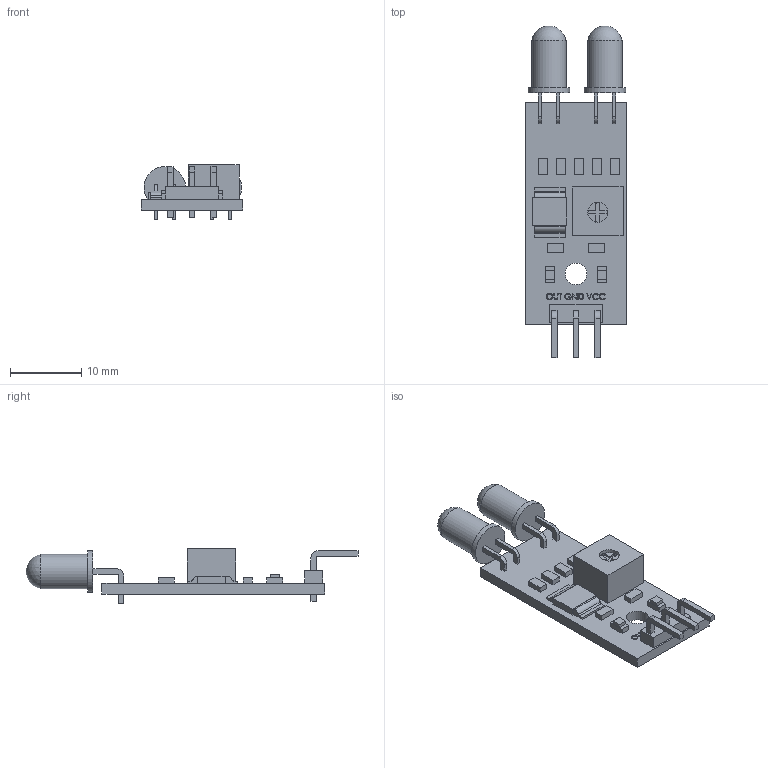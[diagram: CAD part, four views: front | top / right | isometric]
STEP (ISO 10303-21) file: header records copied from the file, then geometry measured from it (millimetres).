
FILE_DESCRIPTION(/* description */ (''),/* implementation_level */ '2;1');
FILE_NAME(/* name */ 'C:/Users/User/Desktop/IR Sensor (FC51) v1.step',/* time_stamp */ '2020-09-21T13:38:19+08:00',/* author */ (''),/* organization */ (''),/* preprocessor_version */ 'ST-DEVELOPER v18.1',/* originating_system */ 'Autodesk Translation Framework v9.3.0.1241',/* authorisation */ '');
FILE_SCHEMA (('AUTOMOTIVE_DESIGN { 1 0 10303 214 3 1 1 }'));
Length unit declared in the file: millimetre
Products named in the file (1): IR Sensor (FC51)
Bounding box: 14.22 x 46.61 x 7.62 mm (x, y, z)
Volume: 1334.7 mm3; surface area: 1795.3 mm2
Topology: 3 solids, 3 shells, 313 faces, 796 edges, 529 vertices
Faces by surface type: plane 241, bspline 49, cylinder 21, sphere 2
Full cylindrical faces by diameter (mm): 2.794 x1, 3.048 x1, 4.826 x2, 5.842 x2
Entity records: 12794 total; most frequent: CARTESIAN_POINT 5120, ORIENTED_EDGE 1592, DIRECTION 1277, EDGE_CURVE 796, LINE 649, VECTOR 649, VERTEX_POINT 529, EDGE_LOOP 359
